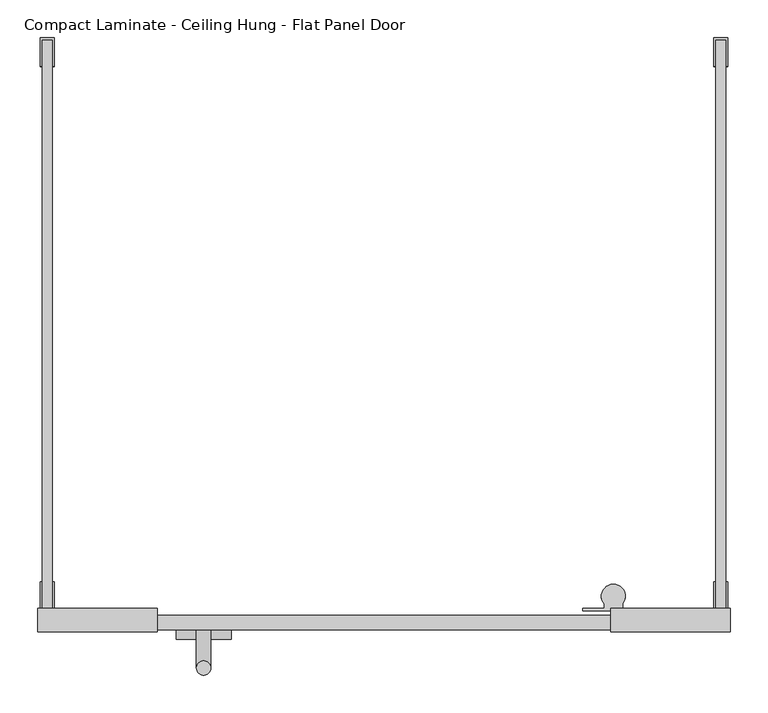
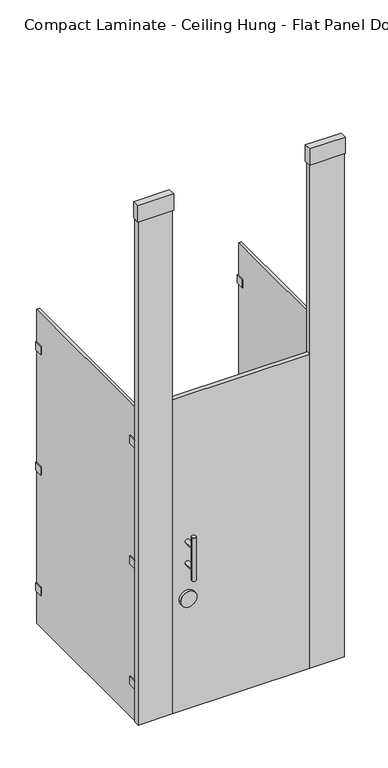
"""IFC4 building model written with IfcOpenShell, lengths in millimetres: proxy geometry, Toilet-Partition_Ironwood-Mfg_Compact-Laminate : Compact Laminate - Ceiling Hung - Flat Panel Door."""

from ifc_helpers import new_model, si_unit, point, frame, frame_2d, origin, place, context, project, spatial, polyline, circle_curve, ellipse_curve, trimmed, segment, composite_curve, outline, extrude, source, transform, mapped, element, save
from ifc_brep_helpers import plane_surface, cylinder_surface, advanced_brep


def compact_laminate_ceiling_hung_flat_panel_door_61d9c0c5(model_context):
    return source(origin(), model_context, "Body", "SolidModel", [
        extrude(outline(polyline([(542.925, -790.575), (542.925, -758.825), (701.675, -758.825), (701.675, -790.575), (542.925, -790.575)])), frame((0.0, 0.0, 2667.0), z_axis=(0.0, 0.0, 1.0), x_axis=(1.0, 0.0, 0.0)), (0.0, 0.0, 1.0), 76.1999999),
        extrude(outline(polyline([(0.0, 152.4), (25.4, 152.4), (25.4, 0.0), (0.0, 0.0), (0.0, 152.4)])), frame((546.1, -762.0, 304.8), z_axis=(1.181277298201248e-12, 0.0, 1.0), x_axis=(0.0, -1.0, 0.0)), (0.0, 0.0, 1.0), 2362.2),
        extrude(outline(polyline([(-60.325, -790.575), (-219.075, -790.575), (-219.075, -758.825), (-60.325, -758.825), (-60.325, -790.575)])), frame((0.0, 0.0, 2667.0), z_axis=(0.0, 0.0, 1.0), x_axis=(1.0, 0.0, 0.0)), (0.0, 0.0, 1.0), 76.1999999),
        extrude(outline(polyline([(0.0, -152.4), (0.0, 0.0), (25.4, 0.0), (25.4, -152.4), (0.0, -152.4)])), frame((-63.5, -762.0, 304.8), z_axis=(-1.1812772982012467e-12, 0.0, 1.0), x_axis=(0.0, -1.0, 0.0)), (0.0, 0.0, 1.0), 2362.2),
        extrude(outline(polyline([(546.1, -787.4), (-63.5, -787.4), (-63.5, -768.35), (546.1, -768.35), (546.1, -787.4)])), frame((0.0, 0.0, 304.8), z_axis=(0.0, 0.0, 1.0), x_axis=(1.0, 0.0, 0.0)), (0.0, 0.0, 1.0), 1473.2),
        extrude(outline(composite_curve([segment(trimmed(circle_curve(frame_2d((827.0875, 1.5875)), 36.5125), [point((827.0875, -34.925))], [point((827.0875, 38.1))], False, "CARTESIAN"), True, "CONTINUOUS"), segment(trimmed(circle_curve(frame_2d((827.0875, 1.5875)), 36.5125), [point((827.0875, 38.1))], [point((827.0875, -34.925))], False, "CARTESIAN"), True, "CONTINUOUS")], self_intersect=False)), frame((0.0, -800.1, 0.0), z_axis=(0.0, 1.0, 0.0), x_axis=(0.0, 0.0, 1.0)), (0.0, 0.0, 1.0), 12.7),
        advanced_brep(
        [(-7.9375, -787.4, 1092.2), (11.1125, -787.4, 1092.2), (-7.9375, -787.4, 990.6), (11.1125, -787.4, 990.6), (11.1125, -838.2, 1092.2), (-7.9375, -838.2, 1092.2), (11.1125, -838.2, 990.6), (-7.9375, -838.2, 990.6), (-7.9375, -838.2, 1143.0), (11.1125, -838.2, 1143.0), (-7.9375, -838.2, 939.8), (11.1125, -838.2, 939.8)],
        [
            (0, 1, circle_curve(frame((1.5875, -787.4, 1092.2), z_axis=(0.0, 1.0, 0.0), x_axis=(1.0, 0.0, 0.0)), 9.525)),
            (1, 0, circle_curve(frame((1.5875, -787.4, 1092.2), z_axis=(0.0, 1.0, 0.0), x_axis=(1.0, 0.0, 0.0)), 9.525)),
            (2, 3, circle_curve(frame((1.5875, -787.4, 990.6), z_axis=(0.0, 1.0, 0.0), x_axis=(1.0, 0.0, 0.0)), 9.525)),
            (3, 2, circle_curve(frame((1.5875, -787.4, 990.6), z_axis=(0.0, 1.0, 0.0), x_axis=(1.0, 0.0, 0.0)), 9.525)),
            (1, 4),
            (4, 5, ellipse_curve(frame((1.5875, -838.2, 1092.2), z_axis=(0.0, 0.7071067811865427, 0.7071067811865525), x_axis=(0.0, -0.7071067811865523, 0.7071067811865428)), 13.4703842, 9.525)),
            (5, 0),
            (5, 4, ellipse_curve(frame((1.5875, -838.2, 1092.2), z_axis=(0.0, 0.7071067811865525, -0.7071067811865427), x_axis=(0.0, -0.7071067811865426, -0.7071067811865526)), 13.4703842, 9.525)),
            (3, 6),
            (6, 7, ellipse_curve(frame((1.5875, -838.2, 990.6), z_axis=(0.0, 0.7071067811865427, 0.7071067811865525), x_axis=(0.0, -0.7071067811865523, 0.7071067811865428)), 13.4703842, 9.525)),
            (7, 2),
            (7, 6, ellipse_curve(frame((1.5875, -838.2, 990.6), z_axis=(0.0, 0.7071067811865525, -0.7071067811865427), x_axis=(0.0, -0.7071067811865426, -0.7071067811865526)), 13.4703842, 9.525)),
            (8, 9, circle_curve(frame((1.5875, -838.2, 1143.0), z_axis=(0.0, 0.0, 1.0), x_axis=(1.0, 0.0, 0.0)), 9.525)),
            (9, 8, circle_curve(frame((1.5875, -838.2, 1143.0), z_axis=(0.0, 0.0, 1.0), x_axis=(1.0, 0.0, 0.0)), 9.525)),
            (10, 11, circle_curve(frame((1.5875, -838.2, 939.8), z_axis=(0.0, 0.0, -1.0), x_axis=(1.0, 0.0, 0.0)), 9.525)),
            (11, 10, circle_curve(frame((1.5875, -838.2, 939.8), z_axis=(0.0, 0.0, -1.0), x_axis=(1.0, 0.0, 0.0)), 9.525)),
            (8, 5),
            (5, 7),
            (7, 10),
            (11, 6),
            (6, 4),
            (4, 9),
        ],
        [
            plane_surface(frame((11.1125, -787.4, 1092.2), z_axis=(0.0, 1.0, 0.0), x_axis=(0.0, 0.0, -1.0))),
            cylinder_surface(frame((1.5875, -787.4, 1092.2), z_axis=(0.0, -1.0, 0.0), x_axis=(1.0, 0.0, 0.0)), 9.525),
            cylinder_surface(frame((1.5875, -787.4, 990.6), z_axis=(0.0, -1.0, 0.0), x_axis=(1.0, 0.0, 0.0)), 9.525),
            plane_surface(frame((11.1125, -838.2, 1143.0), z_axis=(0.0, 0.0, 1.0), x_axis=(0.0, 1.0, 0.0))),
            plane_surface(frame((11.1125, -838.2, 939.8), z_axis=(0.0, 0.0, -1.0), x_axis=(0.0, -1.0, 0.0))),
            cylinder_surface(frame((1.5875, -838.2, 939.8), z_axis=(0.0, 0.0, 1.0), x_axis=(1.0, 0.0, 0.0)), 9.525),
        ],
        [
            (0, [[1, 2]]),
            (0, [[3, 4]]),
            (1, [[-2, 5, 6, 7]]),
            (1, [[-1, -7, 8, -5]]),
            (2, [[-4, 9, 10, 11]]),
            (2, [[-3, -11, 12, -9]]),
            (3, [[13, 14]]),
            (4, [[15, 16]]),
            (5, [[-13, 17, 18, 19, -16, 20, 21, 22]]),
            (5, [[-14, -22, -8, -17]]),
            (5, [[-15, -19, -10, -20]]),
            (5, [[-18, -6, -21, -12]]),
        ],
    ),
        extrude(outline(composite_curve([segment(polyline([(581.3737081, -762.0), (505.1737081, -762.0), (505.1737081, -758.825), (533.7487081, -758.825), (533.7487081, -752.9581331)]), True, "CONTINUOUS"), segment(trimmed(circle_curve(frame_2d((546.1, -742.8902139)), 15.9347861), [point((533.7487081, -752.9581331))], [point((558.4512919, -752.9581331))], False, "CARTESIAN"), True, "CONTINUOUS"), segment(polyline([(558.4512919, -752.9581331), (558.4512919, -758.825), (581.3737081, -758.825), (581.3737081, -762.0)]), True, "CONTINUOUS")], self_intersect=False)), frame((0.0, 0.0, 1574.8), z_axis=(0.0, 0.0, 1.0), x_axis=(1.0, 0.0, 0.0)), (0.0, 0.0, 1.0), 63.5),
        extrude(outline(composite_curve([segment(polyline([(581.3737081, -762.0), (505.1737081, -762.0), (505.1737081, -758.825), (533.7487081, -758.825), (533.7487081, -752.9581331)]), True, "CONTINUOUS"), segment(trimmed(circle_curve(frame_2d((546.1, -742.8902139)), 15.9347861), [point((533.7487081, -752.9581331))], [point((558.4512919, -752.9581331))], False, "CARTESIAN"), True, "CONTINUOUS"), segment(polyline([(558.4512919, -752.9581331), (558.4512919, -758.825), (581.3737081, -758.825), (581.3737081, -762.0)]), True, "CONTINUOUS")], self_intersect=False)), frame((0.0, 0.0, 1009.6500001), z_axis=(0.0, 0.0, 1.0), x_axis=(1.0, 0.0, 0.0)), (0.0, 0.0, 1.0), 63.5),
        extrude(outline(composite_curve([segment(polyline([(581.3737081, -762.0), (505.1737081, -762.0), (505.1737081, -758.825), (533.7487081, -758.825), (533.7487081, -752.9581331)]), True, "CONTINUOUS"), segment(trimmed(circle_curve(frame_2d((546.1, -742.8902139)), 15.9347861), [point((533.7487081, -752.9581331))], [point((558.4512919, -752.9581331))], False, "CARTESIAN"), True, "CONTINUOUS"), segment(polyline([(558.4512919, -752.9581331), (558.4512919, -758.825), (581.3737081, -758.825), (581.3737081, -762.0)]), True, "CONTINUOUS")], self_intersect=False)), frame((0.0, 0.0, 444.5), z_axis=(0.0, 0.0, 1.0), x_axis=(1.0, 0.0, 0.0)), (0.0, 0.0, 1.0), 63.5),
        extrude(outline(polyline([(682.498, -723.9), (682.498, -758.825), (695.198, -758.825), (695.198, -723.9), (698.373, -723.9), (698.373, -762.0), (679.323, -762.0), (679.323, -723.9), (682.498, -723.9)])), frame((0.0, 0.0, 1587.8188137), z_axis=(0.0, 0.0, 1.0), x_axis=(1.0, 0.0, 0.0)), (0.0, 0.0, 1.0), 38.1),
        extrude(outline(polyline([(682.498, -38.1), (679.323, -38.1), (679.323, 0.0), (698.373, 0.0), (698.373, -38.1), (695.198, -38.1), (695.198, -3.175), (682.498, -3.175), (682.498, -38.1)])), frame((0.0, 0.0, 1587.8188137), z_axis=(0.0, 0.0, 1.0), x_axis=(1.0, 0.0, 0.0)), (0.0, 0.0, 1.0), 38.1),
        extrude(outline(polyline([(682.498, -723.9), (682.498, -758.825), (695.198, -758.825), (695.198, -723.9), (698.373, -723.9), (698.373, -762.0), (679.323, -762.0), (679.323, -723.9), (682.498, -723.9)])), frame((0.0, 0.0, 1022.35), z_axis=(0.0, 0.0, 1.0), x_axis=(1.0, 0.0, 0.0)), (0.0, 0.0, 1.0), 38.1),
        extrude(outline(polyline([(682.498, -38.1), (679.323, -38.1), (679.323, 0.0), (698.373, 0.0), (698.373, -38.1), (695.198, -38.1), (695.198, -3.175), (682.498, -3.175), (682.498, -38.1)])), frame((0.0, 0.0, 1022.35), z_axis=(0.0, 0.0, 1.0), x_axis=(1.0, 0.0, 0.0)), (0.0, 0.0, 1.0), 38.1),
        extrude(outline(polyline([(682.498, -723.9), (682.498, -758.825), (695.198, -758.825), (695.198, -723.9), (698.373, -723.9), (698.373, -762.0), (679.323, -762.0), (679.323, -723.9), (682.498, -723.9)])), frame((0.0, 0.0, 457.2), z_axis=(0.0, 0.0, 1.0), x_axis=(1.0, 0.0, 0.0)), (0.0, 0.0, 1.0), 38.1),
        extrude(outline(polyline([(682.498, -38.1), (679.323, -38.1), (679.323, 0.0), (698.373, 0.0), (698.373, -38.1), (695.198, -38.1), (695.198, -3.175), (682.498, -3.175), (682.498, -38.1)])), frame((0.0, 0.0, 457.2), z_axis=(0.0, 0.0, 1.0), x_axis=(1.0, 0.0, 0.0)), (0.0, 0.0, 1.0), 38.1),
        extrude(outline(polyline([(-212.598, -723.9), (-212.598, -758.825), (-199.898, -758.825), (-199.898, -723.9), (-196.723, -723.9), (-196.723, -762.0), (-215.773, -762.0), (-215.773, -723.9), (-212.598, -723.9)])), frame((0.0, 0.0, 1587.8188137), z_axis=(0.0, 0.0, 1.0), x_axis=(1.0, 0.0, 0.0)), (0.0, 0.0, 1.0), 38.1),
        extrude(outline(polyline([(-212.598, -38.1), (-215.773, -38.1), (-215.773, 0.0), (-196.723, 0.0), (-196.723, -38.1), (-199.898, -38.1), (-199.898, -3.175), (-212.598, -3.175), (-212.598, -38.1)])), frame((0.0, 0.0, 1587.8188137), z_axis=(0.0, 0.0, 1.0), x_axis=(1.0, 0.0, 0.0)), (0.0, 0.0, 1.0), 38.1),
        extrude(outline(polyline([(-212.598, -723.9), (-212.598, -758.825), (-199.898, -758.825), (-199.898, -723.9), (-196.723, -723.9), (-196.723, -762.0), (-215.773, -762.0), (-215.773, -723.9), (-212.598, -723.9)])), frame((0.0, 0.0, 1022.35), z_axis=(0.0, 0.0, 1.0), x_axis=(1.0, 0.0, 0.0)), (0.0, 0.0, 1.0), 38.1),
        extrude(outline(polyline([(-212.598, -38.1), (-215.773, -38.1), (-215.773, 0.0), (-196.723, 0.0), (-196.723, -38.1), (-199.898, -38.1), (-199.898, -3.175), (-212.598, -3.175), (-212.598, -38.1)])), frame((0.0, 0.0, 1022.35), z_axis=(0.0, 0.0, 1.0), x_axis=(1.0, 0.0, 0.0)), (0.0, 0.0, 1.0), 38.1),
        extrude(outline(polyline([(-212.598, -723.9), (-212.598, -758.825), (-199.898, -758.825), (-199.898, -723.9), (-196.723, -723.9), (-196.723, -762.0), (-215.773, -762.0), (-215.773, -723.9), (-212.598, -723.9)])), frame((0.0, 0.0, 457.2), z_axis=(0.0, 0.0, 1.0), x_axis=(1.0, 0.0, 0.0)), (0.0, 0.0, 1.0), 38.1),
        extrude(outline(polyline([(-212.598, -38.1), (-215.773, -38.1), (-215.773, 0.0), (-196.723, 0.0), (-196.723, -38.1), (-199.898, -38.1), (-199.898, -3.175), (-212.598, -3.175), (-212.598, -38.1)])), frame((0.0, 0.0, 457.2), z_axis=(0.0, 0.0, 1.0), x_axis=(1.0, 0.0, 0.0)), (0.0, 0.0, 1.0), 38.1),
        extrude(outline(polyline([(-199.898, -3.175), (-199.898, -758.825), (-212.598, -758.825), (-212.598, -3.175), (-199.898, -3.175)])), frame((0.0, 0.0, 304.8), z_axis=(0.0, 0.0, 1.0), x_axis=(1.0, 0.0, 0.0)), (0.0, 0.0, 1.0), 1473.2),
        extrude(outline(polyline([(695.198, -3.175), (695.198, -758.825), (682.498, -758.825), (682.498, -3.175), (695.198, -3.175)])), frame((0.0, 0.0, 304.8), z_axis=(0.0, 0.0, 1.0), x_axis=(1.0, 0.0, 0.0)), (0.0, 0.0, 1.0), 1473.2),
    ])


if __name__ == "__main__":
    model = new_model("IFC4")
    model_context = context("Model", 3, world=origin())
    ifc_project = project(units=[si_unit("LENGTHUNIT", "METRE", prefix="MILLI")], contexts=[model_context])
    site = spatial("IfcSite", under=ifc_project)
    building = spatial("IfcBuilding", under=site)
    placement = place(None, origin())
    compact_laminate_ceiling_hung_flat_panel_door_shape = compact_laminate_ceiling_hung_flat_panel_door_61d9c0c5(model_context)
    element("IfcBuildingElementProxy", 1, Name="Toilet-Partition_Ironwood-Mfg_Compact-Laminate : Compact Laminate - Ceiling Hung - Flat Panel Door", ObjectType="Toilet-Partition_Ironwood-Mfg_Compact-Laminate : Compact Laminate - Ceiling Hung - Flat Panel Door", at=placement, inside=building, context=model_context, shape_type="MappedRepresentation", body=[
        mapped(compact_laminate_ceiling_hung_flat_panel_door_shape, transform((0.0, 0.0, 0.0), x_axis=(1.0, 0.0, 0.0), y_axis=(0.0, 1.0, 0.0), z_axis=(0.0, 0.0, 1.0))),
    ])
    save(model, "model.ifc")
